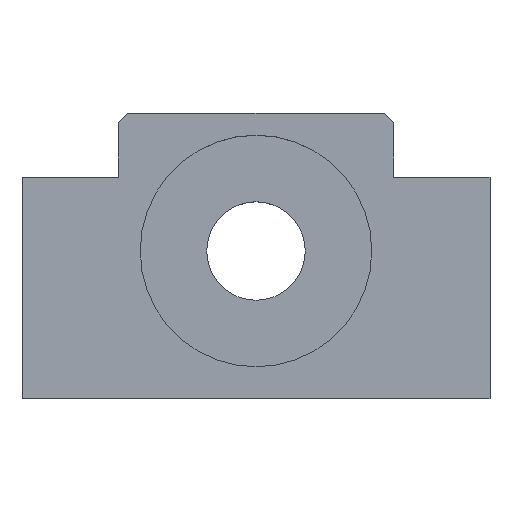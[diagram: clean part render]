
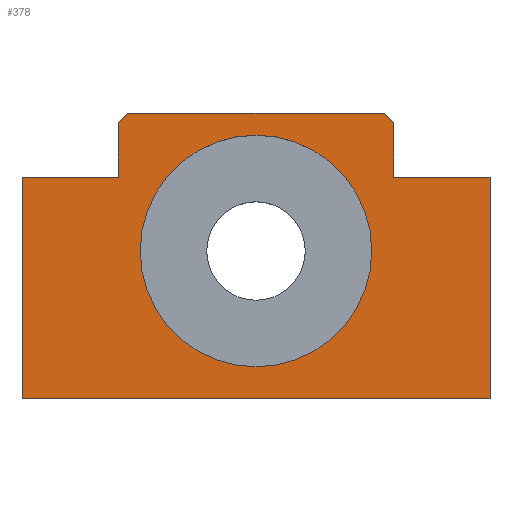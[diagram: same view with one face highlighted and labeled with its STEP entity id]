
A CAD part, top view. The second image highlights one B-rep face of the part: STEP entity #378.
In plain terms, the highlighted planar face has unit normal (0, 0, 1).
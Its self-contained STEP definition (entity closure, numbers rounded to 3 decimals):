
#42=FACE_BOUND($,#113,.T.);
#48=CIRCLE($,#396,23.5);
#73=FACE_OUTER_BOUND($,#112,.T.);
#112=EDGE_LOOP($,(#329,#330,#331,#332,#333,#334,#335,#336,#337,#338));
#113=EDGE_LOOP($,(#339));
#114=LINE($,#529,#144);
#120=LINE($,#540,#150);
#129=LINE($,#562,#159);
#132=LINE($,#567,#162);
#135=LINE($,#610,#165);
#137=LINE($,#613,#167);
#138=LINE($,#615,#168);
#139=LINE($,#618,#169);
#141=LINE($,#622,#171);
#143=LINE($,#625,#173);
#144=VECTOR($,#423,2.828);
#150=VECTOR($,#431,11.);
#159=VECTOR($,#446,2.828);
#162=VECTOR($,#451,11.);
#165=VECTOR($,#504,45.);
#167=VECTOR($,#508,19.5);
#168=VECTOR($,#511,52.);
#169=VECTOR($,#514,19.5);
#171=VECTOR($,#518,45.);
#173=VECTOR($,#522,95.);
#174=VERTEX_POINT($,#527);
#175=VERTEX_POINT($,#528);
#179=VERTEX_POINT($,#538);
#188=VERTEX_POINT($,#560);
#189=VERTEX_POINT($,#561);
#190=VERTEX_POINT($,#566);
#195=VERTEX_POINT($,#581);
#204=VERTEX_POINT($,#607);
#205=VERTEX_POINT($,#609);
#206=VERTEX_POINT($,#617);
#207=VERTEX_POINT($,#621);
#208=EDGE_CURVE($,#174,#175,#114,.T.);
#214=EDGE_CURVE($,#174,#179,#120,.T.);
#224=EDGE_CURVE($,#188,#189,#129,.T.);
#227=EDGE_CURVE($,#190,#189,#132,.T.);
#233=EDGE_CURVE($,#195,#195,#48,.T.);
#243=EDGE_CURVE($,#205,#204,#135,.T.);
#245=EDGE_CURVE($,#179,#205,#137,.T.);
#246=EDGE_CURVE($,#188,#175,#138,.T.);
#247=EDGE_CURVE($,#206,#190,#139,.T.);
#249=EDGE_CURVE($,#207,#206,#141,.T.);
#251=EDGE_CURVE($,#204,#207,#143,.T.);
#329=ORIENTED_EDGE($,*,*,#208,.F.);
#330=ORIENTED_EDGE($,*,*,#214,.T.);
#331=ORIENTED_EDGE($,*,*,#245,.T.);
#332=ORIENTED_EDGE($,*,*,#243,.T.);
#333=ORIENTED_EDGE($,*,*,#251,.T.);
#334=ORIENTED_EDGE($,*,*,#249,.T.);
#335=ORIENTED_EDGE($,*,*,#247,.T.);
#336=ORIENTED_EDGE($,*,*,#227,.T.);
#337=ORIENTED_EDGE($,*,*,#224,.F.);
#338=ORIENTED_EDGE($,*,*,#246,.T.);
#339=ORIENTED_EDGE($,*,*,#233,.T.);
#355=PLANE($,#418);
#378=ADVANCED_FACE($,(#73,#42),#355,.T.);
#396=AXIS2_PLACEMENT_3D($,#582,#469,#470);
#418=AXIS2_PLACEMENT_3D($,#626,#523,#524);
#423=DIRECTION($,(0.707,0.707,0.));
#431=DIRECTION($,(0.,-1.,0.));
#446=DIRECTION($,(0.707,-0.707,0.));
#451=DIRECTION($,(0.,1.,0.));
#469=DIRECTION('center_axis',(0.,0.,-1.));
#470=DIRECTION('ref_axis',(-1.,0.,0.));
#504=DIRECTION($,(0.,-1.,0.));
#508=DIRECTION($,(-1.,0.,0.));
#511=DIRECTION($,(-1.,0.,0.));
#514=DIRECTION($,(-1.,0.,0.));
#518=DIRECTION($,(0.,1.,0.));
#522=DIRECTION($,(1.,0.,0.));
#523=DIRECTION('center_axis',(0.,0.,1.));
#524=DIRECTION('ref_axis',(1.,0.,0.));
#527=CARTESIAN_POINT('',(19.5,56.,26.));
#528=CARTESIAN_POINT('',(21.5,58.,26.));
#529=CARTESIAN_POINT($,(19.836,56.336,26.));
#538=CARTESIAN_POINT('',(19.5,45.,26.));
#540=CARTESIAN_POINT($,(19.5,58.,26.));
#560=CARTESIAN_POINT('',(73.5,58.,26.));
#561=CARTESIAN_POINT('',(75.5,56.,26.));
#562=CARTESIAN_POINT($,(75.164,56.336,26.));
#566=CARTESIAN_POINT('',(75.5,45.,26.));
#567=CARTESIAN_POINT($,(75.5,45.,26.));
#581=CARTESIAN_POINT('',(71.,30.,26.));
#582=CARTESIAN_POINT('Origin',(47.5,30.,26.));
#607=CARTESIAN_POINT('',(0.,0.,26.));
#609=CARTESIAN_POINT('',(0.,45.,26.));
#610=CARTESIAN_POINT($,(0.,45.,26.));
#613=CARTESIAN_POINT($,(19.5,45.,26.));
#615=CARTESIAN_POINT($,(75.5,58.,26.));
#617=CARTESIAN_POINT('',(95.,45.,26.));
#618=CARTESIAN_POINT($,(95.,45.,26.));
#621=CARTESIAN_POINT('',(95.,0.,26.));
#622=CARTESIAN_POINT($,(95.,0.,26.));
#625=CARTESIAN_POINT($,(0.,0.,26.));
#626=CARTESIAN_POINT('Origin',(47.5,27.343,26.));
